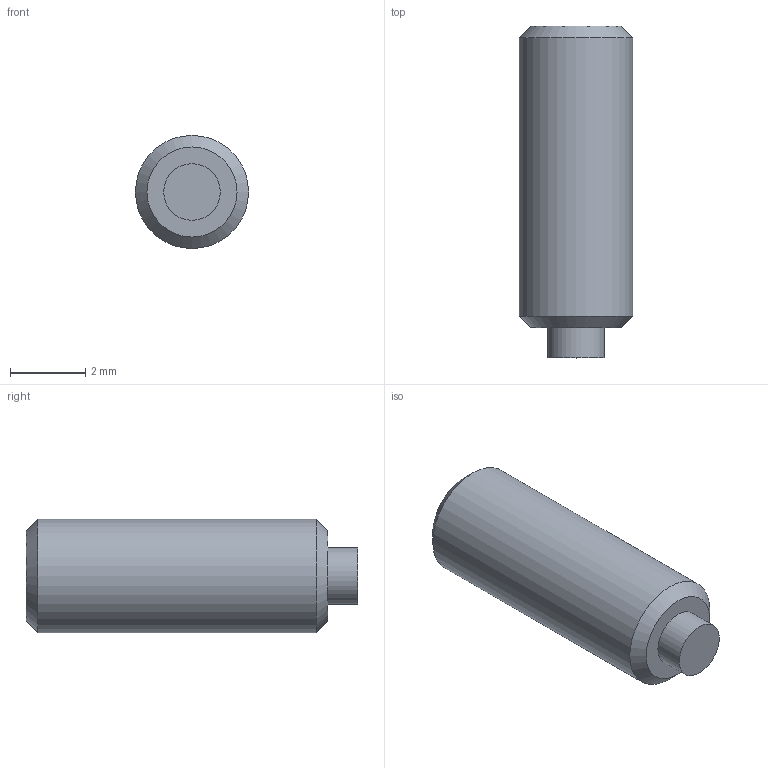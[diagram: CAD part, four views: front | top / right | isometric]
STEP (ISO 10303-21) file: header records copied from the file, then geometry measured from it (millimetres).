
FILE_DESCRIPTION( ( 'STEP AP203' ), '1' );
FILE_NAME( 'C:/Temp/Ganter_Step_05_03_2020/data/3_2/gn913_3/Grub screw GN 913.3-M3-8-KU.stp', '2020-03-13T05:35:32', ( 'License CC BY-ND 4.0' ), ( 'CADENAS' ), ' ', 'PARTsolutions', ' ' );
FILE_SCHEMA( ( 'CONFIG_CONTROL_DESIGN' ) );
Length unit declared in the file: millimetre
Products named in the file (1): _Grub screw GN 913.3-M3-8-KU
Bounding box: 3 x 8.8 x 3 mm (x, y, z)
Volume: 54.2 mm3; surface area: 97.5 mm2
Topology: 1 solids, 1 shells, 14 faces, 28 edges, 18 vertices
Faces by surface type: plane 10, cylinder 2, cone 2
Full cylindrical faces by diameter (mm): 1.5 x1, 3 x1
Entity records: 386 total; most frequent: DIRECTION 60, CARTESIAN_POINT 57, ORIENTED_EDGE 48, EDGE_CURVE 24, AXIS2_PLACEMENT_3D 21, EDGE_LOOP 20, VERTEX_POINT 18, LINE 18
